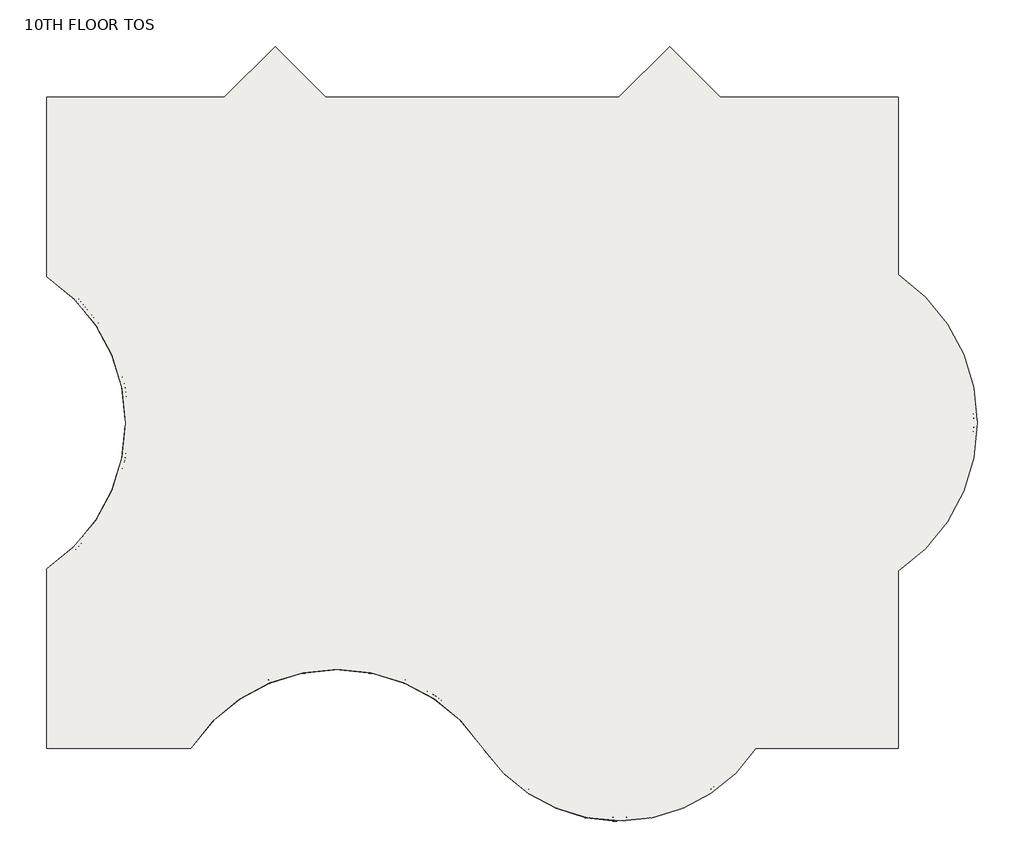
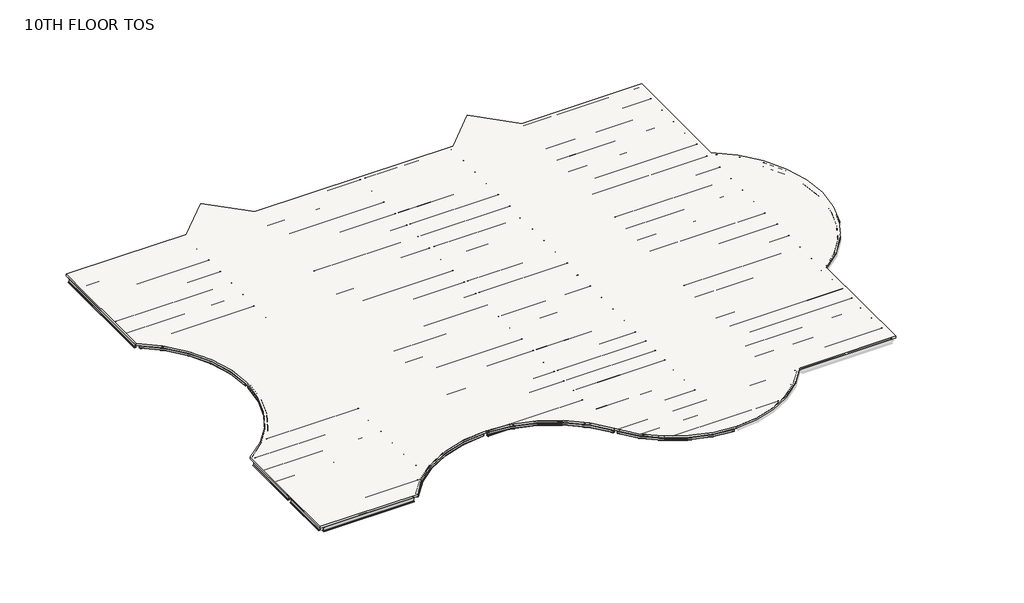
# One storey, part 1 of 2: 86 beams, 1 slab.
"""IFC4 building model written with IfcOpenShell, lengths in millimetres."""

from ifc_helpers import new_model, si_unit, frame, origin, place, context, project, spatial, polyline, circle_curve, transform, mapped, element, save
from ifc_brep_helpers import plane_surface, cylinder_surface, revolved_surface, advanced_brep
from components import m_hss_square_hss203_2x203_2x9_5_914ff4eb, m_hss_square_hss203_2x203_2x9_5_0e3d8e6e, m_hss_square_hss203_2x203_2x9_5_16dc1c03, m_hss_square_hss203_2x203_2x9_5_18346204, m_hss_square_hss203_2x203_2x9_5_d5f1e8c4, ub_universal_beams_ub254x102x28_4e7f3726, ub_universal_beams_ub305x165x40_c4d0385b, ub_universal_beams_ub305x165x40_d3abc31d, ub_universal_beams_ub305x165x40_0c73730f, ub_universal_beams_ub305x165x40_2a963f0c, ub_universal_beams_ub305x165x40_0a5f2f96, ub_universal_beams_ub305x165x40_d1f7c369, ub_universal_beams_ub305x165x40_83d7b7d5, ub_universal_beams_ub305x165x40_729a4ea5, ub_universal_beams_ub305x165x40_71dfa851, ub_universal_beams_ub305x165x40_619b5398, ub_universal_beams_ub305x165x40_c3492db1, ub_universal_beams_ub305x165x40_8f1c350d, ub_universal_beams_ub305x165x40_3afb5f90, ub_universal_beams_ub305x165x40_767d1929, ub_universal_beams_ub305x165x40_5941ca45, ub_universal_beams_ub356x171x51_ef72dcdd, ub_universal_beams_ub356x171x51_7f80702c, ub_universal_beams_ub356x171x51_dfc36663, ub_universal_beams_ub356x171x51_405a853e, ub_universal_beams_ub356x171x51_e47b7055, ub_universal_beams_ub356x171x51_e97f8d2e, ub_universal_beams_ub356x171x51_11d6b780, ub_universal_beams_ub356x171x51_76b2d20b, ub_universal_beams_ub356x171x51_145ecd4b, ub_universal_beams_ub356x171x51_c7dff8d2, ub_universal_beams_ub356x171x51_834c6e34, ub_universal_beams_ub356x171x51_a38b99de, ub_universal_beams_ub356x171x51_d8f4cdde, ub_universal_beams_ub356x171x51_8094f821, ub_universal_beams_ub356x171x51_e661f2e4, ub_universal_beams_ub356x171x51_3ee91673, ub_universal_beams_ub356x171x51_a871b283, ub_universal_beams_ub356x171x51_741bae58

model = new_model("IFC4")

# Units and contexts
model_context = context("Model", 3, world=origin())
ifc_project = project(units=[si_unit("LENGTHUNIT", "METRE", prefix="MILLI")], contexts=[model_context])

# Site, building, storey
site = spatial("IfcSite", under=ifc_project)
building = spatial("IfcBuilding", under=site)
storey = spatial("IfcBuildingStorey", under=building, Name="10TH FLOOR TOS", Elevation=45567.6)

# Beams
placement = place(None, origin())
m_hss_square_hss203_2x203_2x9_5_shape = m_hss_square_hss203_2x203_2x9_5_914ff4eb(model_context)
element("IfcBeam", 1, ObjectType="M_HSS Square : HSS203.2X203.2X9.5", at=placement, inside=storey, context=model_context, shape_type="MappedRepresentation", body=[
    mapped(m_hss_square_hss203_2x203_2x9_5_shape, transform((22710.575, 155.575, 45466.1), x_axis=(-0.552849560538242, 0.8332810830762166, 0.0), y_axis=(-0.8332810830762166, -0.552849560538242, 0.0), z_axis=(0.0, 0.0, 1.0))),
])
m_hss_square_hss203_2x203_2x9_5_2_shape = m_hss_square_hss203_2x203_2x9_5_0e3d8e6e(model_context)
element("IfcBeam", 2, ObjectType="M_HSS Square : HSS203.2X203.2X9.5", at=placement, inside=storey, context=model_context, shape_type="MappedRepresentation", body=[
    mapped(m_hss_square_hss203_2x203_2x9_5_2_shape, transform((155.575, 9299.575, 45466.1), x_axis=(0.8332810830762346, 0.5528495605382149, 0.0), y_axis=(-0.5528495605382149, 0.8332810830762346, 0.0), z_axis=(0.0, 0.0, 1.0))),
])
m_hss_square_hss203_2x203_2x9_5_3_shape = m_hss_square_hss203_2x203_2x9_5_16dc1c03(model_context)
element("IfcBeam", 3, ObjectType="M_HSS Square : HSS203.2X203.2X9.5", at=placement, inside=storey, context=model_context, shape_type="MappedRepresentation", body=[
    mapped(m_hss_square_hss203_2x203_2x9_5_3_shape, transform((155.575, 24539.575, 45466.1), x_axis=(0.8332810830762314, -0.5528495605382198, 0.0), y_axis=(0.5528495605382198, 0.8332810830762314, 0.0), z_axis=(0.0, 0.0, 1.0))),
])
m_hss_square_hss203_2x203_2x9_5_4_shape = m_hss_square_hss203_2x203_2x9_5_18346204(model_context)
element("IfcBeam", 4, ObjectType="M_HSS Square : HSS203.2X203.2X9.5", at=placement, inside=storey, context=model_context, shape_type="MappedRepresentation", body=[
    mapped(m_hss_square_hss203_2x203_2x9_5_4_shape, transform((29734.7266693, -3601.398624, 45466.1), x_axis=(-0.9999968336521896, -0.0025164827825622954, 0.0), y_axis=(0.0025164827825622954, -0.9999968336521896, 0.0), z_axis=(0.0, 0.0, 1.0))),
])
m_hss_square_hss203_2x203_2x9_5_5_shape = m_hss_square_hss203_2x203_2x9_5_d5f1e8c4(model_context)
element("IfcBeam", 5, ObjectType="M_HSS Square : HSS203.2X203.2X9.5", at=placement, inside=storey, context=model_context, shape_type="MappedRepresentation", body=[
    mapped(m_hss_square_hss203_2x203_2x9_5_5_shape, transform((15096.4572854, 4244.5731081, 45466.1), x_axis=(-0.9999997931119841, 0.0006432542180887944, 0.0), y_axis=(-0.0006432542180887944, -0.9999997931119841, 0.0), z_axis=(0.0, 0.0, 1.0))),
])
ub_universal_beams_ub254x102x28_shape = ub_universal_beams_ub254x102x28_4e7f3726(model_context)
element("IfcBeam", 6, ObjectType="UB-Universal Beams : UB254x102x28", at=placement, inside=storey, context=model_context, shape_type="MappedRepresentation", body=[
    mapped(ub_universal_beams_ub254x102x28_shape, transform((9299.575, 3210.915913, 45437.4), x_axis=(0.0, -1.0, 0.0), y_axis=(1.0, 0.0, 0.0), z_axis=(0.0, 0.0, 1.0))),
])
ub_universal_beams_ub305x165x40_shape = ub_universal_beams_ub305x165x40_c4d0385b(model_context)
element("IfcBeam", 7, ObjectType="UB-Universal Beams : UB305x165x40", at=placement, inside=storey, context=model_context, shape_type="MappedRepresentation", body=[
    mapped(ub_universal_beams_ub305x165x40_shape, transform((4727.575, 30635.575, 45415.9), x_axis=(1.0, 0.0, 0.0), y_axis=(0.0, 1.0, 0.0), z_axis=(0.0, 0.0, 1.0))),
])
element("IfcBeam", 8, ObjectType="UB-Universal Beams : UB305x165x40", at=placement, inside=storey, context=model_context, shape_type="MappedRepresentation", body=[
    mapped(ub_universal_beams_ub305x165x40_shape, transform((4727.575, 29111.575, 45415.9), x_axis=(1.0, 0.0, 0.0), y_axis=(0.0, 1.0, 0.0), z_axis=(0.0, 0.0, 1.0))),
])
element("IfcBeam", 9, ObjectType="UB-Universal Beams : UB305x165x40", at=placement, inside=storey, context=model_context, shape_type="MappedRepresentation", body=[
    mapped(ub_universal_beams_ub305x165x40_shape, transform((4727.575, 27587.575, 45415.9), x_axis=(1.0, 0.0, 0.0), y_axis=(0.0, 1.0, 0.0), z_axis=(0.0, 0.0, 1.0))),
])
element("IfcBeam", 10, ObjectType="UB-Universal Beams : UB305x165x40", at=placement, inside=storey, context=model_context, shape_type="MappedRepresentation", body=[
    mapped(ub_universal_beams_ub305x165x40_shape, transform((4727.575, 26063.575, 45415.9), x_axis=(1.0, 0.0, 0.0), y_axis=(0.0, 1.0, 0.0), z_axis=(0.0, 0.0, 1.0))),
])
element("IfcBeam", 11, ObjectType="UB-Universal Beams : UB305x165x40", at=placement, inside=storey, context=model_context, shape_type="MappedRepresentation", body=[
    mapped(ub_universal_beams_ub305x165x40_shape, transform((4727.575, 4727.575, 45415.9), x_axis=(-1.0, 0.0, 0.0), y_axis=(0.0, -1.0, 0.0), z_axis=(0.0, 0.0, 1.0))),
])
element("IfcBeam", 12, ObjectType="UB-Universal Beams : UB305x165x40", at=placement, inside=storey, context=model_context, shape_type="MappedRepresentation", body=[
    mapped(ub_universal_beams_ub305x165x40_shape, transform((4727.575, 6251.575, 45415.9), x_axis=(-1.0, 0.0, 0.0), y_axis=(0.0, -1.0, 0.0), z_axis=(0.0, 0.0, 1.0))),
])
element("IfcBeam", 13, ObjectType="UB-Universal Beams : UB305x165x40", at=placement, inside=storey, context=model_context, shape_type="MappedRepresentation", body=[
    mapped(ub_universal_beams_ub305x165x40_shape, transform((4727.575, 7775.575, 45415.9), x_axis=(-1.0, 0.0, 0.0), y_axis=(0.0, -1.0, 0.0), z_axis=(0.0, 0.0, 1.0))),
])
ub_universal_beams_ub305x165x40_2_shape = ub_universal_beams_ub305x165x40_d3abc31d(model_context)
element("IfcBeam", 14, ObjectType="UB-Universal Beams : UB305x165x40", at=placement, inside=storey, context=model_context, shape_type="MappedRepresentation", body=[
    mapped(ub_universal_beams_ub305x165x40_2_shape, transform((11885.575, 28938.325, 45415.9), x_axis=(1.0, 0.0, 0.0), y_axis=(0.0, 1.0, 0.0), z_axis=(0.0, 0.0, 1.0))),
])
element("IfcBeam", 15, ObjectType="UB-Universal Beams : UB305x165x40", at=placement, inside=storey, context=model_context, shape_type="MappedRepresentation", body=[
    mapped(ub_universal_beams_ub305x165x40_2_shape, transform((11885.575, 27472.075, 45415.9), x_axis=(1.0, 0.0, 0.0), y_axis=(0.0, 1.0, 0.0), z_axis=(0.0, 0.0, 1.0))),
])
element("IfcBeam", 16, ObjectType="UB-Universal Beams : UB305x165x40", at=placement, inside=storey, context=model_context, shape_type="MappedRepresentation", body=[
    mapped(ub_universal_beams_ub305x165x40_2_shape, transform((11885.575, 26005.825, 45415.9), x_axis=(1.0, 0.0, 0.0), y_axis=(0.0, 1.0, 0.0), z_axis=(0.0, 0.0, 1.0))),
])
element("IfcBeam", 17, ObjectType="UB-Universal Beams : UB305x165x40", at=placement, inside=storey, context=model_context, shape_type="MappedRepresentation", body=[
    mapped(ub_universal_beams_ub305x165x40_2_shape, transform((11885.575, 23015.575, 45415.9), x_axis=(1.0, 0.0, 0.0), y_axis=(0.0, 1.0, 0.0), z_axis=(0.0, 0.0, 1.0))),
])
element("IfcBeam", 18, ObjectType="UB-Universal Beams : UB305x165x40", at=placement, inside=storey, context=model_context, shape_type="MappedRepresentation", body=[
    mapped(ub_universal_beams_ub305x165x40_2_shape, transform((11885.575, 21491.575, 45415.9), x_axis=(1.0, 0.0, 0.0), y_axis=(0.0, 1.0, 0.0), z_axis=(0.0, 0.0, 1.0))),
])
element("IfcBeam", 19, ObjectType="UB-Universal Beams : UB305x165x40", at=placement, inside=storey, context=model_context, shape_type="MappedRepresentation", body=[
    mapped(ub_universal_beams_ub305x165x40_2_shape, transform((11885.575, 19967.575, 45415.9), x_axis=(1.0, 0.0, 0.0), y_axis=(0.0, 1.0, 0.0), z_axis=(0.0, 0.0, 1.0))),
])
element("IfcBeam", 20, ObjectType="UB-Universal Beams : UB305x165x40", at=placement, inside=storey, context=model_context, shape_type="MappedRepresentation", body=[
    mapped(ub_universal_beams_ub305x165x40_2_shape, transform((11885.575, 18443.575, 45415.9), x_axis=(1.0, 0.0, 0.0), y_axis=(0.0, 1.0, 0.0), z_axis=(0.0, 0.0, 1.0))),
])
element("IfcBeam", 21, ObjectType="UB-Universal Beams : UB305x165x40", at=placement, inside=storey, context=model_context, shape_type="MappedRepresentation", body=[
    mapped(ub_universal_beams_ub305x165x40_2_shape, transform((11885.575, 15395.575, 45415.9), x_axis=(1.0, 0.0, 0.0), y_axis=(0.0, 1.0, 0.0), z_axis=(0.0, 0.0, 1.0))),
])
element("IfcBeam", 22, ObjectType="UB-Universal Beams : UB305x165x40", at=placement, inside=storey, context=model_context, shape_type="MappedRepresentation", body=[
    mapped(ub_universal_beams_ub305x165x40_2_shape, transform((11885.575, 13871.575, 45415.9), x_axis=(1.0, 0.0, 0.0), y_axis=(0.0, 1.0, 0.0), z_axis=(0.0, 0.0, 1.0))),
])
element("IfcBeam", 23, ObjectType="UB-Universal Beams : UB305x165x40", at=placement, inside=storey, context=model_context, shape_type="MappedRepresentation", body=[
    mapped(ub_universal_beams_ub305x165x40_2_shape, transform((11885.575, 12347.575, 45415.9), x_axis=(1.0, 0.0, 0.0), y_axis=(0.0, 1.0, 0.0), z_axis=(0.0, 0.0, 1.0))),
])
element("IfcBeam", 24, ObjectType="UB-Universal Beams : UB305x165x40", at=placement, inside=storey, context=model_context, shape_type="MappedRepresentation", body=[
    mapped(ub_universal_beams_ub305x165x40_2_shape, transform((11885.575, 10823.575, 45415.9), x_axis=(1.0, 0.0, 0.0), y_axis=(0.0, 1.0, 0.0), z_axis=(0.0, 0.0, 1.0))),
])
element("IfcBeam", 25, ObjectType="UB-Universal Beams : UB305x165x40", at=placement, inside=storey, context=model_context, shape_type="MappedRepresentation", body=[
    mapped(ub_universal_beams_ub305x165x40_2_shape, transform((11885.575, 5026.1840956, 45415.9), x_axis=(-1.0, 0.0, 0.0), y_axis=(0.0, -1.0, 0.0), z_axis=(0.0, 0.0, 1.0))),
])
element("IfcBeam", 26, ObjectType="UB-Universal Beams : UB305x165x40", at=placement, inside=storey, context=model_context, shape_type="MappedRepresentation", body=[
    mapped(ub_universal_beams_ub305x165x40_2_shape, transform((11885.575, 6450.6477304, 45415.9), x_axis=(-1.0, 0.0, 0.0), y_axis=(0.0, -1.0, 0.0), z_axis=(0.0, 0.0, 1.0))),
])
element("IfcBeam", 27, ObjectType="UB-Universal Beams : UB305x165x40", at=placement, inside=storey, context=model_context, shape_type="MappedRepresentation", body=[
    mapped(ub_universal_beams_ub305x165x40_2_shape, transform((11885.575, 7875.1113652, 45415.9), x_axis=(-1.0, 0.0, 0.0), y_axis=(0.0, -1.0, 0.0), z_axis=(0.0, 0.0, 1.0))),
])
ub_universal_beams_ub305x165x40_3_shape = ub_universal_beams_ub305x165x40_0c73730f(model_context)
element("IfcBeam", 28, ObjectType="UB-Universal Beams : UB305x165x40", at=placement, inside=storey, context=model_context, shape_type="MappedRepresentation", body=[
    mapped(ub_universal_beams_ub305x165x40_3_shape, transform((18591.075, 5492.5943214, 45415.9), x_axis=(-1.0, 0.0, 0.0), y_axis=(0.0, -1.0, 0.0), z_axis=(0.0, 0.0, 1.0))),
])
element("IfcBeam", 29, ObjectType="UB-Universal Beams : UB305x165x40", at=placement, inside=storey, context=model_context, shape_type="MappedRepresentation", body=[
    mapped(ub_universal_beams_ub305x165x40_3_shape, transform((18591.075, 6761.5878809, 45415.9), x_axis=(-1.0, 0.0, 0.0), y_axis=(0.0, -1.0, 0.0), z_axis=(0.0, 0.0, 1.0))),
])
element("IfcBeam", 30, ObjectType="UB-Universal Beams : UB305x165x40", at=placement, inside=storey, context=model_context, shape_type="MappedRepresentation", body=[
    mapped(ub_universal_beams_ub305x165x40_3_shape, transform((18591.075, 8030.5814405, 45415.9), x_axis=(-1.0, 0.0, 0.0), y_axis=(0.0, -1.0, 0.0), z_axis=(0.0, 0.0, 1.0))),
])
element("IfcBeam", 31, ObjectType="UB-Universal Beams : UB305x165x40", at=placement, inside=storey, context=model_context, shape_type="MappedRepresentation", body=[
    mapped(ub_universal_beams_ub305x165x40_3_shape, transform((18591.075, 15395.575, 45415.9), x_axis=(1.0, 0.0, 0.0), y_axis=(0.0, 1.0, 0.0), z_axis=(0.0, 0.0, 1.0))),
])
element("IfcBeam", 32, ObjectType="UB-Universal Beams : UB305x165x40", at=placement, inside=storey, context=model_context, shape_type="MappedRepresentation", body=[
    mapped(ub_universal_beams_ub305x165x40_3_shape, transform((18591.075, 13871.575, 45415.9), x_axis=(1.0, 0.0, 0.0), y_axis=(0.0, 1.0, 0.0), z_axis=(0.0, 0.0, 1.0))),
])
element("IfcBeam", 33, ObjectType="UB-Universal Beams : UB305x165x40", at=placement, inside=storey, context=model_context, shape_type="MappedRepresentation", body=[
    mapped(ub_universal_beams_ub305x165x40_3_shape, transform((18591.075, 12347.575, 45415.9), x_axis=(1.0, 0.0, 0.0), y_axis=(0.0, 1.0, 0.0), z_axis=(0.0, 0.0, 1.0))),
])
element("IfcBeam", 34, ObjectType="UB-Universal Beams : UB305x165x40", at=placement, inside=storey, context=model_context, shape_type="MappedRepresentation", body=[
    mapped(ub_universal_beams_ub305x165x40_3_shape, transform((18591.075, 10823.575, 45415.9), x_axis=(1.0, 0.0, 0.0), y_axis=(0.0, 1.0, 0.0), z_axis=(0.0, 0.0, 1.0))),
])
ub_universal_beams_ub305x165x40_4_shape = ub_universal_beams_ub305x165x40_2a963f0c(model_context)
element("IfcBeam", 35, ObjectType="UB-Universal Beams : UB305x165x40", at=placement, inside=storey, context=model_context, shape_type="MappedRepresentation", body=[
    mapped(ub_universal_beams_ub305x165x40_4_shape, transform((26211.075, 15395.575, 45415.9), x_axis=(1.0, 0.0, 0.0), y_axis=(0.0, 1.0, 0.0), z_axis=(0.0, 0.0, 1.0))),
])
element("IfcBeam", 36, ObjectType="UB-Universal Beams : UB305x165x40", at=placement, inside=storey, context=model_context, shape_type="MappedRepresentation", body=[
    mapped(ub_universal_beams_ub305x165x40_4_shape, transform((26211.075, 13871.575, 45415.9), x_axis=(1.0, 0.0, 0.0), y_axis=(0.0, 1.0, 0.0), z_axis=(0.0, 0.0, 1.0))),
])
element("IfcBeam", 37, ObjectType="UB-Universal Beams : UB305x165x40", at=placement, inside=storey, context=model_context, shape_type="MappedRepresentation", body=[
    mapped(ub_universal_beams_ub305x165x40_4_shape, transform((26211.075, 12347.575, 45415.9), x_axis=(1.0, 0.0, 0.0), y_axis=(0.0, 1.0, 0.0), z_axis=(0.0, 0.0, 1.0))),
])
element("IfcBeam", 38, ObjectType="UB-Universal Beams : UB305x165x40", at=placement, inside=storey, context=model_context, shape_type="MappedRepresentation", body=[
    mapped(ub_universal_beams_ub305x165x40_4_shape, transform((26211.075, 10823.575, 45415.9), x_axis=(1.0, 0.0, 0.0), y_axis=(0.0, 1.0, 0.0), z_axis=(0.0, 0.0, 1.0))),
])
element("IfcBeam", 39, ObjectType="UB-Universal Beams : UB305x165x40", at=placement, inside=storey, context=model_context, shape_type="MappedRepresentation", body=[
    mapped(ub_universal_beams_ub305x165x40_4_shape, transform((26211.075, 5508.325, 45415.9), x_axis=(-1.0, 0.0, 0.0), y_axis=(0.0, -1.0, 0.0), z_axis=(0.0, 0.0, 1.0))),
])
element("IfcBeam", 40, ObjectType="UB-Universal Beams : UB305x165x40", at=placement, inside=storey, context=model_context, shape_type="MappedRepresentation", body=[
    mapped(ub_universal_beams_ub305x165x40_4_shape, transform((26211.075, 6772.075, 45415.9), x_axis=(-1.0, 0.0, 0.0), y_axis=(0.0, -1.0, 0.0), z_axis=(0.0, 0.0, 1.0))),
])
element("IfcBeam", 41, ObjectType="UB-Universal Beams : UB305x165x40", at=placement, inside=storey, context=model_context, shape_type="MappedRepresentation", body=[
    mapped(ub_universal_beams_ub305x165x40_4_shape, transform((26211.075, 8035.825, 45415.9), x_axis=(-1.0, 0.0, 0.0), y_axis=(0.0, -1.0, 0.0), z_axis=(0.0, 0.0, 1.0))),
])
element("IfcBeam", 42, ObjectType="UB-Universal Beams : UB305x165x40", at=placement, inside=storey, context=model_context, shape_type="MappedRepresentation", body=[
    mapped(ub_universal_beams_ub305x165x40_4_shape, transform((26211.075, 1518.575, 45415.9), x_axis=(-1.0, 0.0, 0.0), y_axis=(0.0, -1.0, 0.0), z_axis=(0.0, 0.0, 1.0))),
])
element("IfcBeam", 43, ObjectType="UB-Universal Beams : UB305x165x40", at=placement, inside=storey, context=model_context, shape_type="MappedRepresentation", body=[
    mapped(ub_universal_beams_ub305x165x40_4_shape, transform((26211.075, 2881.575, 45415.9), x_axis=(-1.0, 0.0, 0.0), y_axis=(0.0, -1.0, 0.0), z_axis=(0.0, 0.0, 1.0))),
])
ub_universal_beams_ub305x165x40_5_shape = ub_universal_beams_ub305x165x40_0a5f2f96(model_context)
element("IfcBeam", 44, ObjectType="UB-Universal Beams : UB305x165x40", at=placement, inside=storey, context=model_context, shape_type="MappedRepresentation", body=[
    mapped(ub_universal_beams_ub305x165x40_5_shape, transform((29713.575, -2349.0918253, 45415.9), x_axis=(-1.0, 0.0, 0.0), y_axis=(0.0, -1.0, 0.0), z_axis=(0.0, 0.0, 1.0))),
])
ub_universal_beams_ub305x165x40_6_shape = ub_universal_beams_ub305x165x40_d1f7c369(model_context)
element("IfcBeam", 45, ObjectType="UB-Universal Beams : UB305x165x40", at=placement, inside=storey, context=model_context, shape_type="MappedRepresentation", body=[
    mapped(ub_universal_beams_ub305x165x40_6_shape, transform((29713.575, -1096.7584126, 45415.9), x_axis=(-1.0, 0.0, 0.0), y_axis=(0.0, -1.0, 0.0), z_axis=(0.0, 0.0, 1.0))),
])
ub_universal_beams_ub305x165x40_7_shape = ub_universal_beams_ub305x165x40_83d7b7d5(model_context)
element("IfcBeam", 46, ObjectType="UB-Universal Beams : UB305x165x40", at=placement, inside=storey, context=model_context, shape_type="MappedRepresentation", body=[
    mapped(ub_universal_beams_ub305x165x40_7_shape, transform((22157.3041106, 1518.575, 45415.9), x_axis=(-1.0, 0.0, 0.0), y_axis=(0.0, -1.0, 0.0), z_axis=(0.0, 0.0, 1.0))),
])
ub_universal_beams_ub305x165x40_8_shape = ub_universal_beams_ub305x165x40_729a4ea5(model_context)
element("IfcBeam", 47, ObjectType="UB-Universal Beams : UB305x165x40", at=placement, inside=storey, context=model_context, shape_type="MappedRepresentation", body=[
    mapped(ub_universal_beams_ub305x165x40_8_shape, transform((21302.1545844, 2881.575, 45415.9), x_axis=(-1.0, 0.0, 0.0), y_axis=(0.0, -1.0, 0.0), z_axis=(0.0, 0.0, 1.0))),
])
ub_universal_beams_ub305x165x40_9_shape = ub_universal_beams_ub305x165x40_71dfa851(model_context)
element("IfcBeam", 48, ObjectType="UB-Universal Beams : UB305x165x40", at=placement, inside=storey, context=model_context, shape_type="MappedRepresentation", body=[
    mapped(ub_universal_beams_ub305x165x40_9_shape, transform((10511.0323166, 3601.7204608, 45415.9), x_axis=(-1.0, 0.0, 0.0), y_axis=(0.0, -1.0, 0.0), z_axis=(0.0, 0.0, 1.0))),
])
ub_universal_beams_ub305x165x40_10_shape = ub_universal_beams_ub305x165x40_619b5398(model_context)
element("IfcBeam", 49, ObjectType="UB-Universal Beams : UB305x165x40", at=placement, inside=storey, context=model_context, shape_type="MappedRepresentation", body=[
    mapped(ub_universal_beams_ub305x165x40_10_shape, transform((4447.6838282, 1679.575, 45415.9), x_axis=(-1.0, 0.0, 0.0), y_axis=(0.0, -1.0, 0.0), z_axis=(0.0, 0.0, 1.0))),
])
ub_universal_beams_ub305x165x40_11_shape = ub_universal_beams_ub305x165x40_c3492db1(model_context)
element("IfcBeam", 50, ObjectType="UB-Universal Beams : UB305x165x40", at=placement, inside=storey, context=model_context, shape_type="MappedRepresentation", body=[
    mapped(ub_universal_beams_ub305x165x40_11_shape, transform((4727.575, 3203.575, 45415.9), x_axis=(-1.0, 0.0, 0.0), y_axis=(0.0, -1.0, 0.0), z_axis=(0.0, 0.0, 1.0))),
])
ub_universal_beams_ub305x165x40_12_shape = ub_universal_beams_ub305x165x40_8f1c350d(model_context)
element("IfcBeam", 51, ObjectType="UB-Universal Beams : UB305x165x40", at=placement, inside=storey, context=model_context, shape_type="MappedRepresentation", body=[
    mapped(ub_universal_beams_ub305x165x40_12_shape, transform((6708.1318611, 15395.575, 45415.9), x_axis=(1.0, 0.0, 0.0), y_axis=(0.0, 1.0, 0.0), z_axis=(0.0, 0.0, 1.0))),
])
element("IfcBeam", 52, ObjectType="UB-Universal Beams : UB305x165x40", at=placement, inside=storey, context=model_context, shape_type="MappedRepresentation", body=[
    mapped(ub_universal_beams_ub305x165x40_12_shape, transform((6708.1318611, 18443.575, 45415.9), x_axis=(1.0, 0.0, 0.0), y_axis=(0.0, 1.0, 0.0), z_axis=(0.0, 0.0, 1.0))),
])
ub_universal_beams_ub305x165x40_13_shape = ub_universal_beams_ub305x165x40_3afb5f90(model_context)
element("IfcBeam", 53, ObjectType="UB-Universal Beams : UB305x165x40", at=placement, inside=storey, context=model_context, shape_type="MappedRepresentation", body=[
    mapped(ub_universal_beams_ub305x165x40_13_shape, transform((6510.6153272, 13871.575, 45415.9), x_axis=(1.0, 0.0, 0.0), y_axis=(0.0, 1.0, 0.0), z_axis=(0.0, 0.0, 1.0))),
])
element("IfcBeam", 54, ObjectType="UB-Universal Beams : UB305x165x40", at=placement, inside=storey, context=model_context, shape_type="MappedRepresentation", body=[
    mapped(ub_universal_beams_ub305x165x40_13_shape, transform((6510.6153272, 19967.575, 45415.9), x_axis=(1.0, 0.0, 0.0), y_axis=(0.0, 1.0, 0.0), z_axis=(0.0, 0.0, 1.0))),
])
ub_universal_beams_ub305x165x40_14_shape = ub_universal_beams_ub305x165x40_767d1929(model_context)
element("IfcBeam", 55, ObjectType="UB-Universal Beams : UB305x165x40", at=placement, inside=storey, context=model_context, shape_type="MappedRepresentation", body=[
    mapped(ub_universal_beams_ub305x165x40_14_shape, transform((6159.5874928, 12347.575, 45415.9), x_axis=(1.0, 0.0, 0.0), y_axis=(0.0, 1.0, 0.0), z_axis=(0.0, 0.0, 1.0))),
])
element("IfcBeam", 56, ObjectType="UB-Universal Beams : UB305x165x40", at=placement, inside=storey, context=model_context, shape_type="MappedRepresentation", body=[
    mapped(ub_universal_beams_ub305x165x40_14_shape, transform((6159.5874928, 21491.575, 45415.9), x_axis=(1.0, 0.0, 0.0), y_axis=(0.0, 1.0, 0.0), z_axis=(0.0, 0.0, 1.0))),
])
ub_universal_beams_ub305x165x40_15_shape = ub_universal_beams_ub305x165x40_5941ca45(model_context)
element("IfcBeam", 57, ObjectType="UB-Universal Beams : UB305x165x40", at=placement, inside=storey, context=model_context, shape_type="MappedRepresentation", body=[
    mapped(ub_universal_beams_ub305x165x40_15_shape, transform((5607.9405309, 10823.575, 45415.9), x_axis=(1.0, 0.0, 0.0), y_axis=(0.0, 1.0, 0.0), z_axis=(0.0, 0.0, 1.0))),
])
element("IfcBeam", 58, ObjectType="UB-Universal Beams : UB305x165x40", at=placement, inside=storey, context=model_context, shape_type="MappedRepresentation", body=[
    mapped(ub_universal_beams_ub305x165x40_15_shape, transform((5607.9405309, 23015.575, 45415.9), x_axis=(1.0, 0.0, 0.0), y_axis=(0.0, 1.0, 0.0), z_axis=(0.0, 0.0, 1.0))),
])
ub_universal_beams_ub356x171x51_shape = ub_universal_beams_ub356x171x51_ef72dcdd(model_context)
element("IfcBeam", 59, ObjectType="UB-Universal Beams : UB356x171x51", at=placement, inside=storey, context=model_context, shape_type="MappedRepresentation", body=[
    mapped(ub_universal_beams_ub356x171x51_shape, transform((9299.575, 6772.075, 45390.1), x_axis=(0.0, -1.0, 0.0), y_axis=(1.0, 0.0, 0.0), z_axis=(0.0, 0.0, 1.0))),
])
element("IfcBeam", 60, ObjectType="UB-Universal Beams : UB356x171x51", at=placement, inside=storey, context=model_context, shape_type="MappedRepresentation", body=[
    mapped(ub_universal_beams_ub356x171x51_shape, transform((29711.575, 6772.075, 45390.1), x_axis=(0.0, 1.0, 0.0), y_axis=(-1.0, 0.0, 0.0), z_axis=(0.0, 0.0, 1.0))),
])
element("IfcBeam", 61, ObjectType="UB-Universal Beams : UB356x171x51", at=placement, inside=storey, context=model_context, shape_type="MappedRepresentation", body=[
    mapped(ub_universal_beams_ub356x171x51_shape, transform((22710.575, 6772.075, 45390.1), x_axis=(0.0, -1.0, 0.0), y_axis=(1.0, 0.0, 0.0), z_axis=(0.0, 0.0, 1.0))),
])
ub_universal_beams_ub356x171x51_2_shape = ub_universal_beams_ub356x171x51_7f80702c(model_context)
element("IfcBeam", 62, ObjectType="UB-Universal Beams : UB356x171x51", at=placement, inside=storey, context=model_context, shape_type="MappedRepresentation", body=[
    mapped(ub_universal_beams_ub356x171x51_2_shape, transform((3813.075, 155.575, 45390.1), x_axis=(-1.0, 0.0, 0.0), y_axis=(0.0, -1.0, 0.0), z_axis=(0.0, 0.0, 1.0))),
])
ub_universal_beams_ub356x171x51_3_shape = ub_universal_beams_ub356x171x51_dfc36663(model_context)
element("IfcBeam", 63, ObjectType="UB-Universal Beams : UB356x171x51", at=placement, inside=storey, context=model_context, shape_type="MappedRepresentation", body=[
    mapped(ub_universal_beams_ub356x171x51_3_shape, transform((155.575, 2200.075, 45390.1), x_axis=(0.0, 1.0, 0.0), y_axis=(-1.0, 0.0, 0.0), z_axis=(0.0, 0.0, 1.0))),
])
ub_universal_beams_ub356x171x51_4_shape = ub_universal_beams_ub356x171x51_405a853e(model_context)
element("IfcBeam", 64, ObjectType="UB-Universal Beams : UB356x171x51", at=placement, inside=storey, context=model_context, shape_type="MappedRepresentation", body=[
    mapped(ub_universal_beams_ub356x171x51_4_shape, transform((155.575, 6772.075, 45390.1), x_axis=(0.0, 1.0, 0.0), y_axis=(-1.0, 0.0, 0.0), z_axis=(0.0, 0.0, 1.0))),
])
ub_universal_beams_ub356x171x51_5_shape = ub_universal_beams_ub356x171x51_e47b7055(model_context)
element("IfcBeam", 65, ObjectType="UB-Universal Beams : UB356x171x51", at=placement, inside=storey, context=model_context, shape_type="MappedRepresentation", body=[
    mapped(ub_universal_beams_ub356x171x51_5_shape, transform((155.575, 29111.575, 45390.1), x_axis=(0.0, 1.0, 0.0), y_axis=(-1.0, 0.0, 0.0), z_axis=(0.0, 0.0, 1.0))),
])
ub_universal_beams_ub356x171x51_6_shape = ub_universal_beams_ub356x171x51_e97f8d2e(model_context)
element("IfcBeam", 66, ObjectType="UB-Universal Beams : UB356x171x51", at=placement, inside=storey, context=model_context, shape_type="MappedRepresentation", body=[
    mapped(ub_universal_beams_ub356x171x51_6_shape, transform((4727.575, 24539.575, 45390.1), x_axis=(1.0, 0.0, 0.0), y_axis=(0.0, 1.0, 0.0), z_axis=(0.0, 0.0, 1.0))),
])
ub_universal_beams_ub356x171x51_7_shape = ub_universal_beams_ub356x171x51_11d6b780(model_context)
element("IfcBeam", 67, ObjectType="UB-Universal Beams : UB356x171x51", at=placement, inside=storey, context=model_context, shape_type="MappedRepresentation", body=[
    mapped(ub_universal_beams_ub356x171x51_7_shape, transform((11885.575, 24539.575, 45390.1), x_axis=(1.0, 0.0, 0.0), y_axis=(0.0, 1.0, 0.0), z_axis=(0.0, 0.0, 1.0))),
])
element("IfcBeam", 68, ObjectType="UB-Universal Beams : UB356x171x51", at=placement, inside=storey, context=model_context, shape_type="MappedRepresentation", body=[
    mapped(ub_universal_beams_ub356x171x51_7_shape, transform((11885.575, 9299.575, 45390.1), x_axis=(-1.0, 0.0, 0.0), y_axis=(0.0, -1.0, 0.0), z_axis=(0.0, 0.0, 1.0))),
])
element("IfcBeam", 69, ObjectType="UB-Universal Beams : UB356x171x51", at=placement, inside=storey, context=model_context, shape_type="MappedRepresentation", body=[
    mapped(ub_universal_beams_ub356x171x51_7_shape, transform((11885.575, 16919.575, 45390.1), x_axis=(1.0, 0.0, 0.0), y_axis=(0.0, 1.0, 0.0), z_axis=(0.0, 0.0, 1.0))),
])
ub_universal_beams_ub356x171x51_8_shape = ub_universal_beams_ub356x171x51_76b2d20b(model_context)
element("IfcBeam", 70, ObjectType="UB-Universal Beams : UB356x171x51", at=placement, inside=storey, context=model_context, shape_type="MappedRepresentation", body=[
    mapped(ub_universal_beams_ub356x171x51_8_shape, transform((18591.075, 9299.575, 45390.1), x_axis=(-1.0, 0.0, 0.0), y_axis=(0.0, -1.0, 0.0), z_axis=(0.0, 0.0, 1.0))),
])
ub_universal_beams_ub356x171x51_9_shape = ub_universal_beams_ub356x171x51_145ecd4b(model_context)
element("IfcBeam", 71, ObjectType="UB-Universal Beams : UB356x171x51", at=placement, inside=storey, context=model_context, shape_type="MappedRepresentation", body=[
    mapped(ub_universal_beams_ub356x171x51_9_shape, transform((26211.075, 9299.575, 45390.1), x_axis=(-1.0, 0.0, 0.0), y_axis=(0.0, -1.0, 0.0), z_axis=(0.0, 0.0, 1.0))),
])
element("IfcBeam", 72, ObjectType="UB-Universal Beams : UB356x171x51", at=placement, inside=storey, context=model_context, shape_type="MappedRepresentation", body=[
    mapped(ub_universal_beams_ub356x171x51_9_shape, transform((26211.075, 4244.575, 45390.1), x_axis=(-1.0, 0.0, 0.0), y_axis=(0.0, -1.0, 0.0), z_axis=(0.0, 0.0, 1.0))),
])
ub_universal_beams_ub356x171x51_10_shape = ub_universal_beams_ub356x171x51_c7dff8d2(model_context)
element("IfcBeam", 73, ObjectType="UB-Universal Beams : UB356x171x51", at=placement, inside=storey, context=model_context, shape_type="MappedRepresentation", body=[
    mapped(ub_universal_beams_ub356x171x51_10_shape, transform((4727.575, 9299.575, 45390.1), x_axis=(-1.0, 0.0, 0.0), y_axis=(0.0, -1.0, 0.0), z_axis=(0.0, 0.0, 1.0))),
])
ub_universal_beams_ub356x171x51_11_shape = ub_universal_beams_ub356x171x51_834c6e34(model_context)
element("IfcBeam", 74, ObjectType="UB-Universal Beams : UB356x171x51", at=placement, inside=storey, context=model_context, shape_type="MappedRepresentation", body=[
    mapped(ub_universal_beams_ub356x171x51_11_shape, transform((14471.575, 6761.5878809, 45390.1), x_axis=(0.0, -1.0, 0.0), y_axis=(1.0, 0.0, 0.0), z_axis=(0.0, 0.0, 1.0))),
])
ub_universal_beams_ub356x171x51_12_shape = ub_universal_beams_ub356x171x51_a38b99de(model_context)
element("IfcBeam", 75, ObjectType="UB-Universal Beams : UB356x171x51", at=placement, inside=storey, context=model_context, shape_type="MappedRepresentation", body=[
    mapped(ub_universal_beams_ub356x171x51_12_shape, transform((9299.575, 13109.575, 45390.1), x_axis=(0.0, 1.0, 0.0), y_axis=(-1.0, 0.0, 0.0), z_axis=(0.0, 0.0, 1.0))),
])
element("IfcBeam", 76, ObjectType="UB-Universal Beams : UB356x171x51", at=placement, inside=storey, context=model_context, shape_type="MappedRepresentation", body=[
    mapped(ub_universal_beams_ub356x171x51_12_shape, transform((9299.575, 20729.575, 45390.1), x_axis=(0.0, 1.0, 0.0), y_axis=(-1.0, 0.0, 0.0), z_axis=(0.0, 0.0, 1.0))),
])
element("IfcBeam", 77, ObjectType="UB-Universal Beams : UB356x171x51", at=placement, inside=storey, context=model_context, shape_type="MappedRepresentation", body=[
    mapped(ub_universal_beams_ub356x171x51_12_shape, transform((14471.575, 20729.575, 45390.1), x_axis=(0.0, -1.0, 0.0), y_axis=(1.0, 0.0, 0.0), z_axis=(0.0, 0.0, 1.0))),
])
element("IfcBeam", 78, ObjectType="UB-Universal Beams : UB356x171x51", at=placement, inside=storey, context=model_context, shape_type="MappedRepresentation", body=[
    mapped(ub_universal_beams_ub356x171x51_12_shape, transform((14471.575, 13109.575, 45390.1), x_axis=(0.0, -1.0, 0.0), y_axis=(1.0, 0.0, 0.0), z_axis=(0.0, 0.0, 1.0))),
])
element("IfcBeam", 79, ObjectType="UB-Universal Beams : UB356x171x51", at=placement, inside=storey, context=model_context, shape_type="MappedRepresentation", body=[
    mapped(ub_universal_beams_ub356x171x51_12_shape, transform((22710.575, 13109.575, 45390.1), x_axis=(0.0, -1.0, 0.0), y_axis=(1.0, 0.0, 0.0), z_axis=(0.0, 0.0, 1.0))),
])
element("IfcBeam", 80, ObjectType="UB-Universal Beams : UB356x171x51", at=placement, inside=storey, context=model_context, shape_type="MappedRepresentation", body=[
    mapped(ub_universal_beams_ub356x171x51_12_shape, transform((29711.575, 13109.575, 45390.1), x_axis=(0.0, 1.0, 0.0), y_axis=(-1.0, 0.0, 0.0), z_axis=(0.0, 0.0, 1.0))),
])
ub_universal_beams_ub356x171x51_13_shape = ub_universal_beams_ub356x171x51_d8f4cdde(model_context)
element("IfcBeam", 81, ObjectType="UB-Universal Beams : UB356x171x51", at=placement, inside=storey, context=model_context, shape_type="MappedRepresentation", body=[
    mapped(ub_universal_beams_ub356x171x51_13_shape, transform((9299.575, 29111.575, 45390.1), x_axis=(0.0, 1.0, 0.0), y_axis=(-1.0, 0.0, 0.0), z_axis=(0.0, 0.0, 1.0))),
])
ub_universal_beams_ub356x171x51_14_shape = ub_universal_beams_ub356x171x51_8094f821(model_context)
element("IfcBeam", 82, ObjectType="UB-Universal Beams : UB356x171x51", at=placement, inside=storey, context=model_context, shape_type="MappedRepresentation", body=[
    mapped(ub_universal_beams_ub356x171x51_14_shape, transform((6772.075, 16919.575, 45390.1), x_axis=(1.0, 0.0, 0.0), y_axis=(0.0, 1.0, 0.0), z_axis=(0.0, 0.0, 1.0))),
])
ub_universal_beams_ub356x171x51_15_shape = ub_universal_beams_ub356x171x51_e661f2e4(model_context)
element("IfcBeam", 83, ObjectType="UB-Universal Beams : UB356x171x51", at=placement, inside=storey, context=model_context, shape_type="MappedRepresentation", body=[
    mapped(ub_universal_beams_ub356x171x51_15_shape, transform((29713.575, 155.575, 45390.1), x_axis=(-1.0, 0.0, 0.0), y_axis=(0.0, -1.0, 0.0), z_axis=(0.0, 0.0, 1.0))),
])
ub_universal_beams_ub356x171x51_16_shape = ub_universal_beams_ub356x171x51_3ee91673(model_context)
element("IfcBeam", 84, ObjectType="UB-Universal Beams : UB356x171x51", at=placement, inside=storey, context=model_context, shape_type="MappedRepresentation", body=[
    mapped(ub_universal_beams_ub356x171x51_16_shape, transform((18900.575, 4244.575, 45390.1), x_axis=(-1.0, 0.0, 0.0), y_axis=(0.0, -1.0, 0.0), z_axis=(0.0, 0.0, 1.0))),
])
ub_universal_beams_ub356x171x51_17_shape = ub_universal_beams_ub356x171x51_a871b283(model_context)
element("IfcBeam", 85, ObjectType="UB-Universal Beams : UB356x171x51", at=placement, inside=storey, context=model_context, shape_type="MappedRepresentation", body=[
    mapped(ub_universal_beams_ub356x171x51_17_shape, transform((22710.575, 2200.075, 45390.1), x_axis=(0.0, -1.0, 0.0), y_axis=(1.0, 0.0, 0.0), z_axis=(0.0, 0.0, 1.0))),
])
ub_universal_beams_ub356x171x51_18_shape = ub_universal_beams_ub356x171x51_741bae58(model_context)
element("IfcBeam", 86, ObjectType="UB-Universal Beams : UB356x171x51", at=placement, inside=storey, context=model_context, shape_type="MappedRepresentation", body=[
    mapped(ub_universal_beams_ub356x171x51_18_shape, transform((29711.575, 2200.075, 45390.1), x_axis=(0.0, -1.0, 0.0), y_axis=(1.0, 0.0, 0.0), z_axis=(0.0, 0.0, 1.0))),
])

# Slab
element("IfcSlab", 87, ObjectType="152mm Concrete With 50mm Metal Deck", at=placement, inside=storey, context=model_context, shape_type="AdvancedBrep", body=[
    advanced_brep(
    [(69.575, 33769.575, 45567.6), (4244.575, 33769.575, 45567.6), (9263.9526336, 33769.575, 45567.6), (11885.575, 36391.1973664, 45567.6), (14507.1973664, 33769.575, 45567.6), (22710.575, 33769.575, 45567.6), (29675.9526336, 33769.575, 45567.6), (32297.575, 36391.1973664, 45567.6), (34919.1973664, 33769.575, 45567.6), (44113.575, 33769.575, 45567.6), (44113.575, 24585.5849139, 45567.6), (44113.575, 9253.5650861, 45567.6), (44113.575, 4244.575, 45567.6), (44113.575, 69.575, 45567.6), (36762.5616677, 69.575, 45567.6), (29734.9430869, -3687.3983517, 45567.6), (22638.9224102, 108.0154965, 45567.6), (15096.4019655, 4158.5731259, 45567.6), (7516.8644167, 69.575, 45567.6), (69.575, 69.575, 45567.6), (69.575, 4244.575, 45567.6), (69.575, 9345.8644167, 45567.6), (69.575, 24493.2855833, 45567.6), (69.575, 33769.575, 45719.6), (69.575, 24493.2855833, 45719.6), (69.575, 9345.8644167, 45719.6), (69.575, 4244.575, 45719.6), (69.575, 69.575, 45719.6), (7516.8644167, 69.575, 45719.6), (15096.4019655, 4158.5731259, 45719.6), (22638.9128269, 108.0299378, 45719.6), (29734.9430869, -3687.3983517, 45719.6), (36762.5616677, 69.575, 45719.6), (44113.575, 69.575, 45719.6), (44113.575, 4244.575, 45719.6), (44113.575, 9253.5650861, 45719.6), (44113.575, 24585.5849139, 45719.6), (44113.575, 33769.575, 45719.6), (34919.1973664, 33769.575, 45719.6), (32297.575, 36391.1973664, 45719.6), (29675.9526336, 33769.575, 45719.6), (22710.575, 33769.575, 45719.6), (14507.1973664, 33769.575, 45719.6), (11885.575, 36391.1973664, 45719.6), (9263.9526336, 33769.575, 45719.6), (4244.575, 33769.575, 45719.6)],
    [
        (0, 1),
        (1, 2),
        (2, 3),
        (3, 4),
        (4, 5),
        (5, 6),
        (6, 7),
        (7, 8),
        (8, 9),
        (9, 10),
        (10, 11, circle_curve(frame((38972.0016324, 16919.575, 45567.6), z_axis=(0.0, 0.0, -1.0), x_axis=(1.0, 0.0, 0.0)), 9230.5733676)),
        (11, 12),
        (12, 13),
        (13, 14),
        (14, 15, circle_curve(frame((29713.575, 4803.825732, 45567.6), z_axis=(0.0, 0.0, -1.0), x_axis=(1.0, 0.0, 0.0)), 8491.2509699)),
        (15, 16, circle_curve(frame((29713.575, 4803.825732, 45567.6), z_axis=(0.0, 0.0, -1.0), x_axis=(1.0, 0.0, 0.0)), 8491.2509699)),
        (16, 17, circle_curve(frame((15090.575, -4899.9983676, 45567.6), z_axis=(0.0, 0.0, 1.0), x_axis=(1.0, 0.0, 0.0)), 9058.5733676)),
        (17, 18, circle_curve(frame((15090.575, -4899.9983676, 45567.6), z_axis=(0.0, 0.0, 1.0), x_axis=(1.0, 0.0, 0.0)), 9058.5733676)),
        (18, 19),
        (19, 20),
        (20, 21),
        (21, 22, circle_curve(frame((-4899.9983676, 16919.575, 45567.6), z_axis=(0.0, 0.0, 1.0), x_axis=(1.0, 0.0, 0.0)), 9058.5733676)),
        (22, 0),
        (23, 24),
        (24, 25, circle_curve(frame((-4899.9983676, 16919.575, 45719.6), z_axis=(0.0, 0.0, -1.0), x_axis=(1.0, 0.0, 0.0)), 9058.5733676)),
        (25, 26),
        (26, 27),
        (27, 28),
        (28, 29, circle_curve(frame((15090.575, -4899.9983676, 45719.6), z_axis=(0.0, 0.0, -1.0), x_axis=(1.0, 0.0, 0.0)), 9058.5733676)),
        (29, 30, circle_curve(frame((15090.575, -4899.9983676, 45719.6), z_axis=(0.0, 0.0, -1.0), x_axis=(1.0, 0.0, 0.0)), 9058.5733676)),
        (30, 31, circle_curve(frame((29713.575, 4803.825732, 45719.6), z_axis=(0.0, 0.0, 1.0), x_axis=(1.0, 0.0, 0.0)), 8491.2509699)),
        (31, 32, circle_curve(frame((29713.575, 4803.825732, 45719.6), z_axis=(0.0, 0.0, 1.0), x_axis=(1.0, 0.0, 0.0)), 8491.2509699)),
        (32, 33),
        (33, 34),
        (34, 35),
        (35, 36, circle_curve(frame((38972.0016324, 16919.575, 45719.6), z_axis=(0.0, 0.0, 1.0), x_axis=(1.0, 0.0, 0.0)), 9230.5733676)),
        (36, 37),
        (37, 38),
        (38, 39),
        (39, 40),
        (40, 41),
        (41, 42),
        (42, 43),
        (43, 44),
        (44, 45),
        (45, 23),
        (0, 23),
        (45, 1),
        (44, 2),
        (43, 3),
        (42, 4),
        (41, 5),
        (40, 6),
        (39, 7),
        (38, 8),
        (37, 9),
        (36, 10),
        (35, 11),
        (34, 12),
        (33, 13),
        (32, 14),
        (31, 15),
        (30, 16),
        (29, 17),
        (28, 18),
        (27, 19),
        (26, 20),
        (25, 21),
        (24, 22),
    ],
    [
        plane_surface(frame((155.575, 33769.575, 45567.6), z_axis=(0.0, 0.0, -1.0), x_axis=(1.0, 0.0, 0.0))),
        plane_surface(frame((155.575, 33769.575, 45719.6), z_axis=(0.0, 0.0, 1.0), x_axis=(-1.0, 0.0, 0.0))),
        plane_surface(frame((69.575, 33769.575, 45567.6), z_axis=(0.0, 1.0, 0.0), x_axis=(0.0, 0.0, 1.0))),
        plane_surface(frame((4244.575, 33769.575, 45567.6), z_axis=(0.0, 1.0, 0.0), x_axis=(0.0, 0.0, 1.0))),
        plane_surface(frame((9263.9526336, 33769.575, 45567.6), z_axis=(-0.7071067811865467, 0.7071067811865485, 0.0), x_axis=(0.0, 0.0, 1.0))),
        plane_surface(frame((11885.575, 36391.1973664, 45567.6), z_axis=(0.7071067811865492, 0.7071067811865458, 0.0), x_axis=(0.0, 0.0, 1.0))),
        plane_surface(frame((14507.1973664, 33769.575, 45567.6), z_axis=(0.0, 1.0, 0.0), x_axis=(0.0, 0.0, 1.0))),
        plane_surface(frame((22710.575, 33769.575, 45567.6), z_axis=(0.0, 1.0, 0.0), x_axis=(0.0, 0.0, 1.0))),
        plane_surface(frame((29675.9526336, 33769.575, 45567.6), z_axis=(-0.7071067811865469, 0.7071067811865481, 0.0), x_axis=(0.0, 0.0, 1.0))),
        plane_surface(frame((32297.575, 36391.1973664, 45567.6), z_axis=(0.7071067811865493, 0.7071067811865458, 0.0), x_axis=(0.0, 0.0, 1.0))),
        plane_surface(frame((34919.1973664, 33769.575, 45567.6), z_axis=(0.0, 1.0, 0.0), x_axis=(0.0, 0.0, 1.0))),
        plane_surface(frame((44113.575, 33769.575, 45567.6), z_axis=(1.0, 0.0, 0.0), x_axis=(0.0, 0.0, 1.0))),
        cylinder_surface(frame((38972.0016324, 16919.575, 45719.6), z_axis=(0.0, 0.0, -1.0), x_axis=(1.0, 0.0, 0.0)), 9230.5733676),
        plane_surface(frame((44113.575, 9253.5650861, 45567.6), z_axis=(1.0, 0.0, 0.0), x_axis=(0.0, 0.0, 1.0))),
        plane_surface(frame((44113.575, 4244.575, 45567.6), z_axis=(1.0, 0.0, 0.0), x_axis=(0.0, 0.0, 1.0))),
        plane_surface(frame((44113.575, 69.575, 45567.6), z_axis=(0.0, -1.0, 0.0), x_axis=(0.0, 0.0, 1.0))),
        cylinder_surface(frame((29713.575, 4803.825732, 45719.6), z_axis=(0.0, 0.0, -1.0), x_axis=(1.0, 0.0, 0.0)), 8491.2509699),
        revolved_surface(polyline([(24149.1483676, -4899.9983676, 45719.6), (24149.1483676, -4899.9983676, 45567.6)]), (15090.575, -4899.9983676, 45719.6), (0.0, 0.0, 1.0)),
        plane_surface(frame((7516.8644167, 69.575, 45567.6), z_axis=(0.0, -1.0, 0.0), x_axis=(0.0, 0.0, 1.0))),
        plane_surface(frame((69.575, 69.575, 45567.6), z_axis=(-1.0, 0.0, 0.0), x_axis=(0.0, 0.0, 1.0))),
        plane_surface(frame((69.575, 4244.575, 45567.6), z_axis=(-1.0, 0.0, 0.0), x_axis=(0.0, 0.0, 1.0))),
        revolved_surface(polyline([(4158.575, 16919.575, 45719.6), (4158.575, 16919.575, 45567.6)]), (-4899.9983676, 16919.575, 45719.6), (0.0, 0.0, 1.0)),
        plane_surface(frame((69.575, 24493.2855833, 45567.6), z_axis=(-1.0, 0.0, 0.0), x_axis=(0.0, 0.0, 1.0))),
    ],
    [
        (0, [[1, 2, 3, 4, 5, 6, 7, 8, 9, 10, 11, 12, 13, 14, 15, 16, 17, 18, 19, 20, 21, 22, 23]]),
        (1, [[24, 25, 26, 27, 28, 29, 30, 31, 32, 33, 34, 35, 36, 37, 38, 39, 40, 41, 42, 43, 44, 45, 46]]),
        (2, [[-1, 47, -46, 48]]),
        (3, [[-2, -48, -45, 49]]),
        (4, [[-3, -49, -44, 50]]),
        (5, [[-4, -50, -43, 51]]),
        (6, [[-5, -51, -42, 52]]),
        (7, [[-6, -52, -41, 53]]),
        (8, [[-7, -53, -40, 54]]),
        (9, [[-8, -54, -39, 55]]),
        (10, [[-9, -55, -38, 56]]),
        (11, [[-10, -56, -37, 57]]),
        (12, [[-11, -57, -36, 58]]),
        (13, [[-12, -58, -35, 59]]),
        (14, [[-13, -59, -34, 60]]),
        (15, [[-14, -60, -33, 61]]),
        (16, [[-15, -61, -32, 62]]),
        (16, [[-16, -62, -31, 63]]),
        (17, [[-17, -63, -30, 64]]),
        (17, [[-18, -64, -29, 65]]),
        (18, [[-19, -65, -28, 66]]),
        (19, [[-20, -66, -27, 67]]),
        (20, [[-21, -67, -26, 68]]),
        (21, [[-22, -68, -25, 69]]),
        (22, [[-23, -69, -24, -47]]),
    ],
),
])

save(model, "model.ifc")
